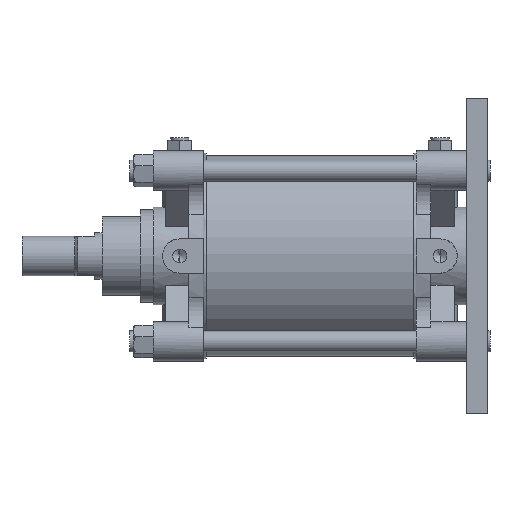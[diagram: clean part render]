
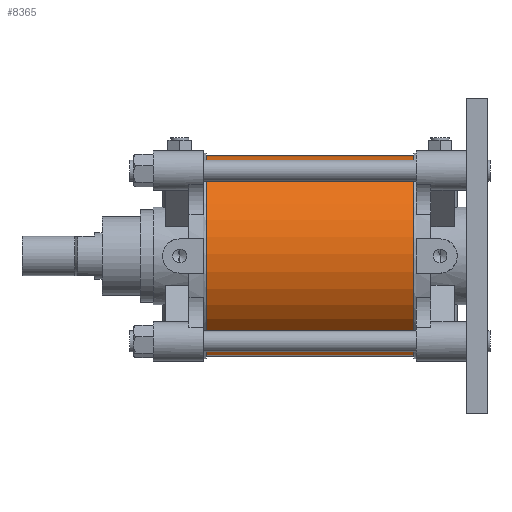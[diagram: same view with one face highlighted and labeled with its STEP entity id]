
A CAD part, front view. The second image highlights one B-rep face of the part: STEP entity #8365.
In plain terms, the highlighted cylindrical face has radius 76.5 mm (diameter 153 mm), a partial arc.
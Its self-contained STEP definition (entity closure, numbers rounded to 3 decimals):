
#107 = EDGE_CURVE ( 'NONE', #3874, #3873, #10185, .T. ) ;
#262 = DIRECTION ( 'NONE',  ( 0., 0., -1. ) ) ;
#299 = VERTEX_POINT ( 'NONE', #796 ) ;
#786 = ORIENTED_EDGE ( 'NONE', *, *, #107, .T. ) ;
#796 = CARTESIAN_POINT ( 'NONE',  ( 79., 0., -76.5 ) ) ;
#852 = EDGE_CURVE ( 'NONE', #299, #3873, #3262, .T. ) ;
#888 = DIRECTION ( 'NONE',  ( -1., 0., 0. ) ) ;
#991 = DIRECTION ( 'NONE',  ( -1., 0., 0. ) ) ;
#1165 = FACE_OUTER_BOUND ( 'NONE', #5965, .T. ) ;
#1599 = CARTESIAN_POINT ( 'NONE',  ( 79., 0., 76.5 ) ) ;
#1824 = CARTESIAN_POINT ( 'NONE',  ( -79., 0., 0. ) ) ;
#2309 = CARTESIAN_POINT ( 'NONE',  ( -79., 0., -76.5 ) ) ;
#2349 = CYLINDRICAL_SURFACE ( 'NONE', #9276, 76.5 ) ;
#3160 = DIRECTION ( 'NONE',  ( 1., 0., 0. ) ) ;
#3262 = LINE ( 'NONE', #6653, #5918 ) ;
#3808 = CARTESIAN_POINT ( 'NONE',  ( 79., 0., 0. ) ) ;
#3873 = VERTEX_POINT ( 'NONE', #2309 ) ;
#3874 = VERTEX_POINT ( 'NONE', #3980 ) ;
#3980 = CARTESIAN_POINT ( 'NONE',  ( -79., 0., 76.5 ) ) ;
#3983 = EDGE_CURVE ( 'NONE', #6072, #299, #6804, .T. ) ;
#4159 = CARTESIAN_POINT ( 'NONE',  ( 79., 0., 0. ) ) ;
#4168 = LINE ( 'NONE', #4337, #6816 ) ;
#4337 = CARTESIAN_POINT ( 'NONE',  ( 79., 0., 76.5 ) ) ;
#4949 = AXIS2_PLACEMENT_3D ( 'NONE', #3808, #3160, #9178 ) ;
#5556 = ORIENTED_EDGE ( 'NONE', *, *, #852, .F. ) ;
#5918 = VECTOR ( 'NONE', #888, 1000. ) ;
#5965 = EDGE_LOOP ( 'NONE', ( #5556, #7308, #7491, #786 ) ) ;
#6072 = VERTEX_POINT ( 'NONE', #1599 ) ;
#6653 = CARTESIAN_POINT ( 'NONE',  ( 79., 0., -76.5 ) ) ;
#6804 = CIRCLE ( 'NONE', #4949, 76.5 ) ;
#6816 = VECTOR ( 'NONE', #7050, 1000. ) ;
#7050 = DIRECTION ( 'NONE',  ( -1., 0., 0. ) ) ;
#7308 = ORIENTED_EDGE ( 'NONE', *, *, #3983, .F. ) ;
#7409 = EDGE_CURVE ( 'NONE', #6072, #3874, #4168, .T. ) ;
#7491 = ORIENTED_EDGE ( 'NONE', *, *, #7409, .T. ) ;
#8219 = DIRECTION ( 'NONE',  ( 0., 0., 1. ) ) ;
#8363 = DIRECTION ( 'NONE',  ( 1., 0., 0. ) ) ;
#8365 = ADVANCED_FACE ( 'NONE', ( #1165 ), #2349, .T. ) ;
#8375 = AXIS2_PLACEMENT_3D ( 'NONE', #1824, #8363, #262 ) ;
#9178 = DIRECTION ( 'NONE',  ( 0., 0., -1. ) ) ;
#9276 = AXIS2_PLACEMENT_3D ( 'NONE', #4159, #991, #8219 ) ;
#10185 = CIRCLE ( 'NONE', #8375, 76.5 ) ;
